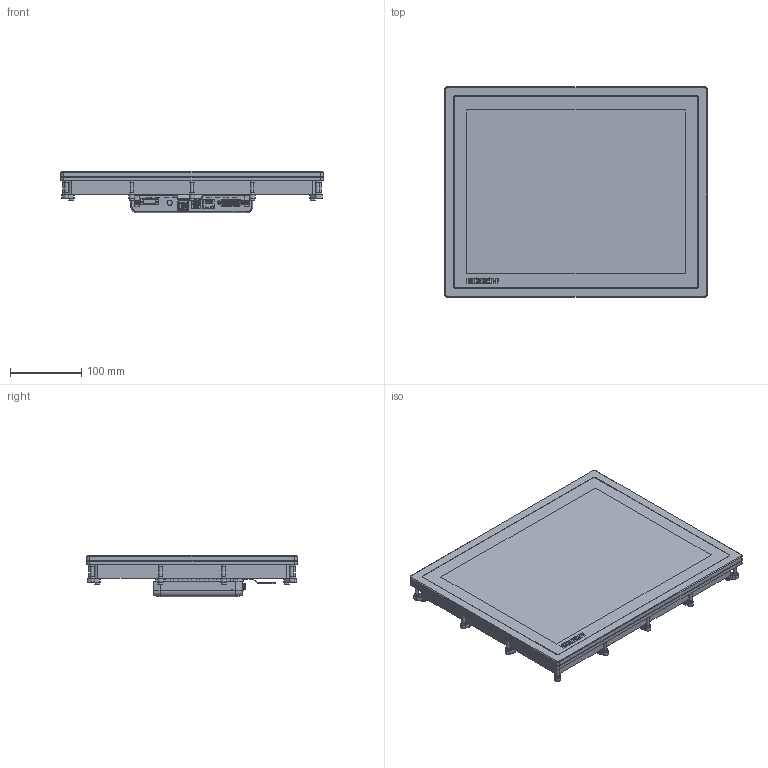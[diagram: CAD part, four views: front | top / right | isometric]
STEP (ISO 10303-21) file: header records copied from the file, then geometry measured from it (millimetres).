
FILE_DESCRIPTION(/* description */ (''),/* implementation_level */ '2;1');
FILE_NAME(/* name */ 'C:\_Vault-Workspace\CAD-Daten\Projekte\Entwicklungsprojekte\CP2\CPX2\CP2915-0000_Ex-Bereich\CPX2915-0000.stp',/* time_stamp */ '2018-03-06T11:41:17+01:00',/* author */ ('DennisJ'),/* organization */ (''),/* preprocessor_version */ 'ST-DEVELOPER v16.13',/* originating_system */ 'Autodesk Inventor 2018',/* authorisation */ '');
FILE_SCHEMA (('AUTOMOTIVE_DESIGN { 1 0 10303 214 3 1 1 }'));
Products named in the file (1): CPX2915-0000
Bounding box: 368.2 x 295.3 x 58.01 mm (x, y, z)
Volume: 3752567.2 mm3; surface area: 372986.2 mm2
Topology: 1 solids, 7 shells, 2391 faces, 6162 edges, 3965 vertices
Faces by surface type: plane 1532, cylinder 624, cone 188, bspline 27, torus 20
Full cylindrical faces by diameter (mm): 1.567 x2, 2.459 x7, 2.693 x2, 3 x2, 3.2 x2, 3.242 x1, 4.4 x14, 4.917 x14, 5 x14, 5.5 x2, 6 x28, 6.03 x1, 7 x14
Entity records: 77628 total; most frequent: CARTESIAN_POINT 18583, ORIENTED_EDGE 11656, DIRECTION 11214, EDGE_CURVE 5820, LINE 4084, VECTOR 4084, VERTEX_POINT 3866, AXIS2_PLACEMENT_3D 3565
